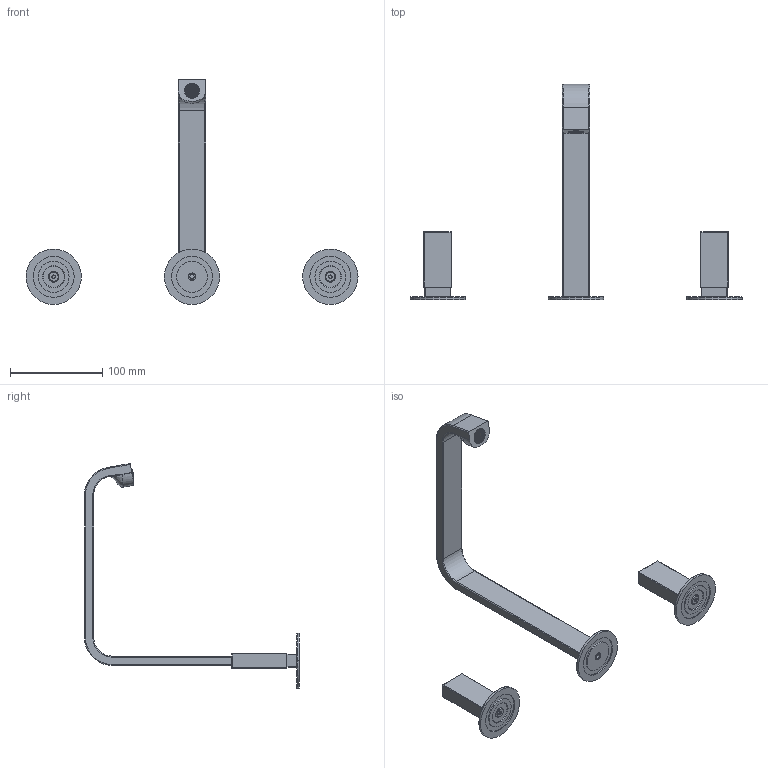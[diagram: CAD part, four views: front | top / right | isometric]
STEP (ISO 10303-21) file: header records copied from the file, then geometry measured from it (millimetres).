
FILE_DESCRIPTION((''),'2;1');
FILE_NAME('53068NP00_SW0001','2026-09-17T14:01:27',('carloff'),(''),'CREO PARAMETRIC BY PTC INC, 2025443','CREO PARAMETRIC BY PTC INC, 2025443','');
FILE_SCHEMA(('CONFIG_CONTROL_DESIGN'));
Products named in the file (1): 53068NP00_SW0001
Bounding box: 360 x 233 x 243.89 mm (x, y, z)
Volume: 152514.2 mm3; surface area: 104127.1 mm2
Topology: 6 solids, 6 shells, 3153 faces, 9667 edges, 6448 vertices
Faces by surface type: plane 2145, torus 397, cylinder 369, bspline 160, cone 61, sphere 18, extrusion 3
Entity records: 136687 total; most frequent: CARTESIAN_POINT 56566, ORIENTED_EDGE 19308, DIRECTION 13188, EDGE_CURVE 9654, VERTEX_POINT 6448, AXIS2_PLACEMENT_3D 4688, B_SPLINE_CURVE_WITH_KNOTS 4150, VECTOR 3812
